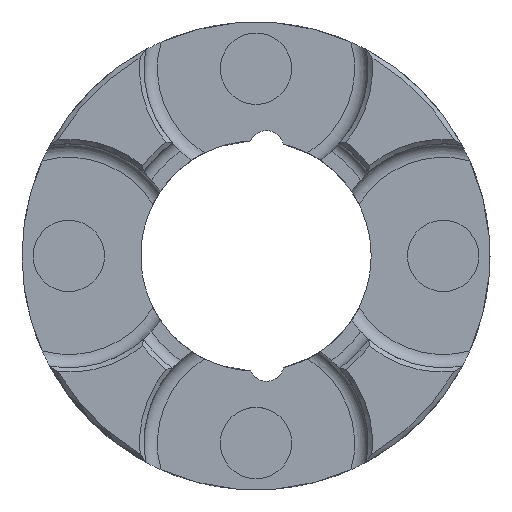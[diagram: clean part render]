
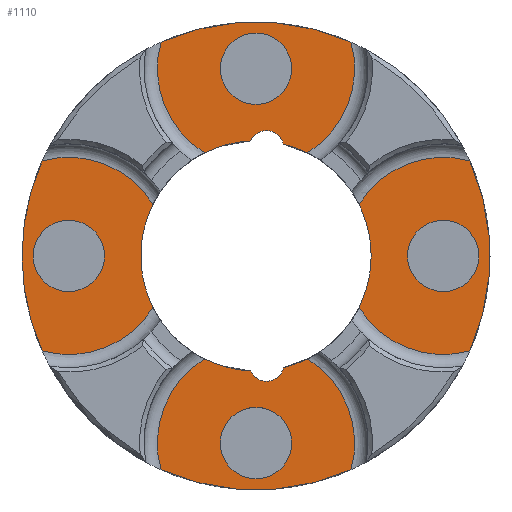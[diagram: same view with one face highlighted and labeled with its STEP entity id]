
A CAD part, top view. The second image highlights one B-rep face of the part: STEP entity #1110.
In plain terms, the highlighted planar face has unit normal (0, 0, 1).
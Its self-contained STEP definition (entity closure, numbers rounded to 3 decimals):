
#116=ELLIPSE('',#1273,3.91,3.9);
#117=ELLIPSE('',#1274,3.91,3.9);
#128=PLANE('',#1257);
#163=FACE_BOUND('',#293,.T.);
#164=FACE_BOUND('',#294,.T.);
#165=FACE_BOUND('',#295,.T.);
#166=FACE_BOUND('',#296,.T.);
#167=FACE_BOUND('',#297,.T.);
#215=FACE_OUTER_BOUND('',#292,.T.);
#292=EDGE_LOOP('',(#913,#914,#915,#916,#917,#918,#919,#920,#921,#922,#923,
#924,#925,#926,#927,#928));
#293=EDGE_LOOP('',(#929));
#294=EDGE_LOOP('',(#930));
#295=EDGE_LOOP('',(#931));
#296=EDGE_LOOP('',(#932));
#297=EDGE_LOOP('',(#933,#934,#935,#936));
#346=CIRCLE('',#1168,52.5);
#348=CIRCLE('',#1170,52.5);
#350=CIRCLE('',#1172,52.5);
#352=CIRCLE('',#1174,52.5);
#381=CIRCLE('',#1228,25.829);
#400=CIRCLE('',#1256,22.13);
#401=CIRCLE('',#1258,25.88);
#402=CIRCLE('',#1259,22.13);
#403=CIRCLE('',#1260,22.13);
#404=CIRCLE('',#1261,25.88);
#405=CIRCLE('',#1262,22.13);
#406=CIRCLE('',#1263,22.13);
#407=CIRCLE('',#1264,25.88);
#408=CIRCLE('',#1265,22.13);
#409=CIRCLE('',#1266,22.13);
#410=CIRCLE('',#1267,25.88);
#411=CIRCLE('',#1268,22.13);
#412=CIRCLE('',#1269,8.);
#413=CIRCLE('',#1270,8.);
#414=CIRCLE('',#1271,8.);
#415=CIRCLE('',#1272,8.);
#416=CIRCLE('',#1275,25.829);
#444=VERTEX_POINT('',#1736);
#445=VERTEX_POINT('',#1747);
#450=VERTEX_POINT('',#1768);
#451=VERTEX_POINT('',#1779);
#456=VERTEX_POINT('',#1800);
#457=VERTEX_POINT('',#1811);
#462=VERTEX_POINT('',#1832);
#463=VERTEX_POINT('',#1843);
#495=VERTEX_POINT('',#2060);
#496=VERTEX_POINT('',#2069);
#519=VERTEX_POINT('',#2222);
#520=VERTEX_POINT('',#2237);
#521=VERTEX_POINT('',#2240);
#522=VERTEX_POINT('',#2242);
#523=VERTEX_POINT('',#2245);
#524=VERTEX_POINT('',#2247);
#525=VERTEX_POINT('',#2250);
#526=VERTEX_POINT('',#2252);
#527=VERTEX_POINT('',#2255);
#528=VERTEX_POINT('',#2257);
#529=VERTEX_POINT('',#2259);
#530=VERTEX_POINT('',#2261);
#531=VERTEX_POINT('',#2263);
#532=VERTEX_POINT('',#2265);
#561=EDGE_CURVE('',#444,#445,#346,.T.);
#567=EDGE_CURVE('',#450,#451,#348,.T.);
#573=EDGE_CURVE('',#456,#457,#350,.T.);
#579=EDGE_CURVE('',#462,#463,#352,.T.);
#636=EDGE_CURVE('',#496,#495,#381,.T.);
#669=EDGE_CURVE('',#519,#444,#400,.T.);
#670=EDGE_CURVE('',#519,#520,#401,.T.);
#671=EDGE_CURVE('',#463,#520,#402,.T.);
#672=EDGE_CURVE('',#521,#462,#403,.T.);
#673=EDGE_CURVE('',#521,#522,#404,.T.);
#674=EDGE_CURVE('',#457,#522,#405,.T.);
#675=EDGE_CURVE('',#523,#456,#406,.T.);
#676=EDGE_CURVE('',#523,#524,#407,.T.);
#677=EDGE_CURVE('',#451,#524,#408,.T.);
#678=EDGE_CURVE('',#525,#450,#409,.T.);
#679=EDGE_CURVE('',#525,#526,#410,.T.);
#680=EDGE_CURVE('',#445,#526,#411,.T.);
#681=EDGE_CURVE('',#527,#527,#412,.T.);
#682=EDGE_CURVE('',#528,#528,#413,.T.);
#683=EDGE_CURVE('',#529,#529,#414,.T.);
#684=EDGE_CURVE('',#530,#530,#415,.T.);
#685=EDGE_CURVE('',#531,#496,#116,.T.);
#686=EDGE_CURVE('',#495,#532,#117,.T.);
#687=EDGE_CURVE('',#532,#531,#416,.T.);
#913=ORIENTED_EDGE('',*,*,#669,.F.);
#914=ORIENTED_EDGE('',*,*,#670,.T.);
#915=ORIENTED_EDGE('',*,*,#671,.F.);
#916=ORIENTED_EDGE('',*,*,#579,.F.);
#917=ORIENTED_EDGE('',*,*,#672,.F.);
#918=ORIENTED_EDGE('',*,*,#673,.T.);
#919=ORIENTED_EDGE('',*,*,#674,.F.);
#920=ORIENTED_EDGE('',*,*,#573,.F.);
#921=ORIENTED_EDGE('',*,*,#675,.F.);
#922=ORIENTED_EDGE('',*,*,#676,.T.);
#923=ORIENTED_EDGE('',*,*,#677,.F.);
#924=ORIENTED_EDGE('',*,*,#567,.F.);
#925=ORIENTED_EDGE('',*,*,#678,.F.);
#926=ORIENTED_EDGE('',*,*,#679,.T.);
#927=ORIENTED_EDGE('',*,*,#680,.F.);
#928=ORIENTED_EDGE('',*,*,#561,.F.);
#929=ORIENTED_EDGE('',*,*,#681,.T.);
#930=ORIENTED_EDGE('',*,*,#682,.T.);
#931=ORIENTED_EDGE('',*,*,#683,.T.);
#932=ORIENTED_EDGE('',*,*,#684,.T.);
#933=ORIENTED_EDGE('',*,*,#685,.T.);
#934=ORIENTED_EDGE('',*,*,#636,.T.);
#935=ORIENTED_EDGE('',*,*,#686,.T.);
#936=ORIENTED_EDGE('',*,*,#687,.T.);
#1110=ADVANCED_FACE('',(#215,#163,#164,#165,#166,#167),#128,.T.);
#1168=AXIS2_PLACEMENT_3D('',#1748,#1369,#1370);
#1170=AXIS2_PLACEMENT_3D('',#1780,#1375,#1376);
#1172=AXIS2_PLACEMENT_3D('',#1812,#1381,#1382);
#1174=AXIS2_PLACEMENT_3D('',#1844,#1387,#1388);
#1228=AXIS2_PLACEMENT_3D('',#2070,#1502,#1503);
#1256=AXIS2_PLACEMENT_3D('',#2235,#1558,#1559);
#1257=AXIS2_PLACEMENT_3D('',#2236,#1560,#1561);
#1258=AXIS2_PLACEMENT_3D('',#2238,#1562,#1563);
#1259=AXIS2_PLACEMENT_3D('',#2239,#1564,#1565);
#1260=AXIS2_PLACEMENT_3D('',#2241,#1566,#1567);
#1261=AXIS2_PLACEMENT_3D('',#2243,#1568,#1569);
#1262=AXIS2_PLACEMENT_3D('',#2244,#1570,#1571);
#1263=AXIS2_PLACEMENT_3D('',#2246,#1572,#1573);
#1264=AXIS2_PLACEMENT_3D('',#2248,#1574,#1575);
#1265=AXIS2_PLACEMENT_3D('',#2249,#1576,#1577);
#1266=AXIS2_PLACEMENT_3D('',#2251,#1578,#1579);
#1267=AXIS2_PLACEMENT_3D('',#2253,#1580,#1581);
#1268=AXIS2_PLACEMENT_3D('',#2254,#1582,#1583);
#1269=AXIS2_PLACEMENT_3D('',#2256,#1584,#1585);
#1270=AXIS2_PLACEMENT_3D('',#2258,#1586,#1587);
#1271=AXIS2_PLACEMENT_3D('',#2260,#1588,#1589);
#1272=AXIS2_PLACEMENT_3D('',#2262,#1590,#1591);
#1273=AXIS2_PLACEMENT_3D('',#2264,#1592,#1593);
#1274=AXIS2_PLACEMENT_3D('',#2266,#1594,#1595);
#1275=AXIS2_PLACEMENT_3D('',#2267,#1596,#1597);
#1369=DIRECTION('center_axis',(0.,0.,-1.));
#1370=DIRECTION('ref_axis',(-1.,0.,0.));
#1375=DIRECTION('center_axis',(0.,0.,-1.));
#1376=DIRECTION('ref_axis',(-1.,0.,0.));
#1381=DIRECTION('center_axis',(0.,0.,-1.));
#1382=DIRECTION('ref_axis',(-1.,0.,0.));
#1387=DIRECTION('center_axis',(0.,0.,-1.));
#1388=DIRECTION('ref_axis',(-1.,0.,0.));
#1502=DIRECTION('center_axis',(0.,0.,-1.));
#1503=DIRECTION('ref_axis',(-1.,0.,0.));
#1558=DIRECTION('center_axis',(0.,0.,-1.));
#1559=DIRECTION('ref_axis',(0.383,-0.924,0.));
#1560=DIRECTION('center_axis',(0.,0.,1.));
#1561=DIRECTION('ref_axis',(1.,0.,0.));
#1562=DIRECTION('center_axis',(0.,0.,1.));
#1563=DIRECTION('ref_axis',(0.829,0.559,0.));
#1564=DIRECTION('center_axis',(0.,0.,-1.));
#1565=DIRECTION('ref_axis',(-0.924,0.383,0.));
#1566=DIRECTION('center_axis',(0.,0.,-1.));
#1567=DIRECTION('ref_axis',(0.924,0.383,0.));
#1568=DIRECTION('center_axis',(0.,0.,1.));
#1569=DIRECTION('ref_axis',(0.559,-0.829,0.));
#1570=DIRECTION('center_axis',(0.,0.,-1.));
#1571=DIRECTION('ref_axis',(-0.383,-0.924,0.));
#1572=DIRECTION('center_axis',(0.,0.,-1.));
#1573=DIRECTION('ref_axis',(-0.383,0.924,0.));
#1574=DIRECTION('center_axis',(0.,0.,1.));
#1575=DIRECTION('ref_axis',(-0.829,-0.559,0.));
#1576=DIRECTION('center_axis',(0.,0.,-1.));
#1577=DIRECTION('ref_axis',(0.924,-0.383,0.));
#1578=DIRECTION('center_axis',(0.,0.,-1.));
#1579=DIRECTION('ref_axis',(-0.924,-0.383,0.));
#1580=DIRECTION('center_axis',(0.,0.,1.));
#1581=DIRECTION('ref_axis',(0.559,-0.829,0.));
#1582=DIRECTION('center_axis',(0.,0.,-1.));
#1583=DIRECTION('ref_axis',(0.383,0.924,0.));
#1584=DIRECTION('center_axis',(0.,0.,-1.));
#1585=DIRECTION('ref_axis',(-1.,0.,0.));
#1586=DIRECTION('center_axis',(0.,0.,-1.));
#1587=DIRECTION('ref_axis',(-1.,0.,0.));
#1588=DIRECTION('center_axis',(0.,0.,-1.));
#1589=DIRECTION('ref_axis',(-1.,0.,0.));
#1590=DIRECTION('center_axis',(0.,0.,-1.));
#1591=DIRECTION('ref_axis',(-1.,0.,0.));
#1592=DIRECTION('center_axis',(0.,0.,-1.));
#1593=DIRECTION('ref_axis',(0.,1.,0.));
#1594=DIRECTION('center_axis',(0.,0.,-1.));
#1595=DIRECTION('ref_axis',(0.,1.,0.));
#1596=DIRECTION('center_axis',(0.,0.,-1.));
#1597=DIRECTION('ref_axis',(-1.,0.,0.));
#1736=CARTESIAN_POINT('',(-47.982,-21.306,39.));
#1747=CARTESIAN_POINT('',(-47.982,21.306,39.));
#1748=CARTESIAN_POINT('Origin',(0.,0.,39.));
#1768=CARTESIAN_POINT('',(-21.306,47.982,39.));
#1779=CARTESIAN_POINT('',(21.306,47.982,39.));
#1780=CARTESIAN_POINT('Origin',(0.,0.,39.));
#1800=CARTESIAN_POINT('',(47.982,21.306,39.));
#1811=CARTESIAN_POINT('',(47.982,-21.306,39.));
#1812=CARTESIAN_POINT('Origin',(0.,0.,39.));
#1832=CARTESIAN_POINT('',(21.306,-47.982,39.));
#1843=CARTESIAN_POINT('',(-21.306,-47.982,39.));
#1844=CARTESIAN_POINT('Origin',(0.,0.,39.));
#2060=CARTESIAN_POINT('',(-1.217,25.8,39.));
#2069=CARTESIAN_POINT('',(-1.217,-25.8,39.));
#2070=CARTESIAN_POINT('Origin',(0.,0.,39.));
#2222=CARTESIAN_POINT('',(-23.143,-11.583,39.));
#2235=CARTESIAN_POINT('Origin',(-42.,0.,39.));
#2236=CARTESIAN_POINT('Origin',(0.,0.,
39.));
#2237=CARTESIAN_POINT('',(-11.583,-23.143,39.));
#2238=CARTESIAN_POINT('Origin',(0.,0.,39.));
#2239=CARTESIAN_POINT('Origin',(0.,-42.,39.));
#2240=CARTESIAN_POINT('',(11.583,-23.143,39.));
#2241=CARTESIAN_POINT('Origin',(0.,-42.,39.));
#2242=CARTESIAN_POINT('',(23.143,-11.583,39.));
#2243=CARTESIAN_POINT('Origin',(0.,0.,39.));
#2244=CARTESIAN_POINT('Origin',(42.,0.,39.));
#2245=CARTESIAN_POINT('',(23.143,11.583,39.));
#2246=CARTESIAN_POINT('Origin',(42.,0.,39.));
#2247=CARTESIAN_POINT('',(11.583,23.143,39.));
#2248=CARTESIAN_POINT('Origin',(0.,0.,39.));
#2249=CARTESIAN_POINT('Origin',(0.,42.,39.));
#2250=CARTESIAN_POINT('',(-11.583,23.143,39.));
#2251=CARTESIAN_POINT('Origin',(0.,42.,39.));
#2252=CARTESIAN_POINT('',(-23.143,11.583,39.));
#2253=CARTESIAN_POINT('Origin',(0.,0.,39.));
#2254=CARTESIAN_POINT('Origin',(-42.,0.,39.));
#2255=CARTESIAN_POINT('',(8.,-42.,39.));
#2256=CARTESIAN_POINT('Origin',(0.,-42.,39.));
#2257=CARTESIAN_POINT('',(8.,42.,39.));
#2258=CARTESIAN_POINT('Origin',(0.,42.,39.));
#2259=CARTESIAN_POINT('',(-34.,0.,39.));
#2260=CARTESIAN_POINT('Origin',(-42.,0.,39.));
#2261=CARTESIAN_POINT('',(50.,0.,39.));
#2262=CARTESIAN_POINT('Origin',(42.,0.,39.));
#2263=CARTESIAN_POINT('',(6.157,-25.084,39.));
#2264=CARTESIAN_POINT('Origin',(2.352,-24.226,39.));
#2265=CARTESIAN_POINT('',(6.157,25.084,39.));
#2266=CARTESIAN_POINT('Origin',(2.352,24.226,39.));
#2267=CARTESIAN_POINT('Origin',(0.,0.,39.));
